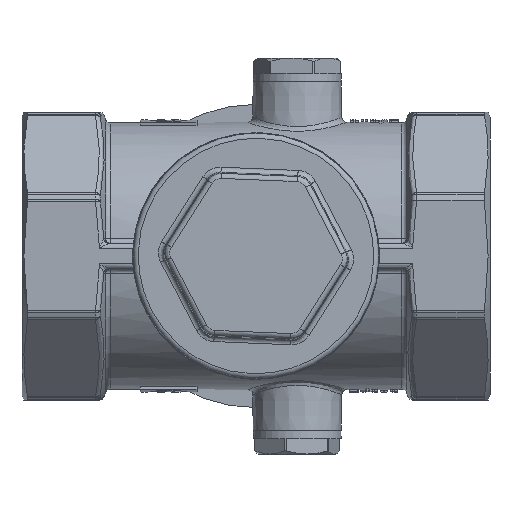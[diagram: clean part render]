
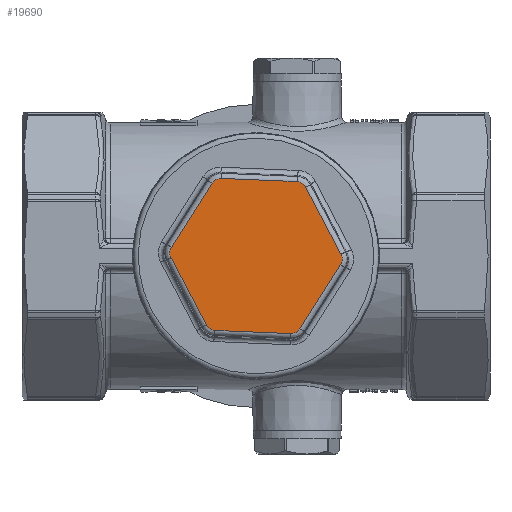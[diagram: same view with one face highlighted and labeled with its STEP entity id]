
A CAD part, front view. The second image highlights one B-rep face of the part: STEP entity #19690.
In plain terms, the highlighted planar face has unit normal (0, -1, 0).
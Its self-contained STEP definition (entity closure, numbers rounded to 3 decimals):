
#154=ELLIPSE('',#21513,2.002,2.);
#157=ELLIPSE('',#21517,2.002,2.);
#158=ELLIPSE('',#21523,2.002,2.);
#161=ELLIPSE('',#21527,2.002,2.);
#162=ELLIPSE('',#21533,2.002,2.);
#165=ELLIPSE('',#21537,2.002,2.);
#2472=LINE('',#42733,#3731);
#2474=LINE('',#42801,#3733);
#2477=LINE('',#42808,#3736);
#2478=LINE('',#42873,#3737);
#2481=LINE('',#42880,#3740);
#2483=LINE('',#42943,#3742);
#3731=VECTOR('',#26361,10.);
#3733=VECTOR('',#26381,10.);
#3736=VECTOR('',#26388,10.);
#3737=VECTOR('',#26405,10.);
#3740=VECTOR('',#26412,10.);
#3742=VECTOR('',#26428,10.);
#4391=PLANE('',#21548);
#5761=FACE_OUTER_BOUND('',#6934,.T.);
#6934=EDGE_LOOP('',(#18412,#18413,#18414,#18415,#18416,#18417,#18418,#18419,
#18420,#18421,#18422,#18423));
#10038=VERTEX_POINT('',#42730);
#10039=VERTEX_POINT('',#42732);
#10042=VERTEX_POINT('',#42763);
#10043=VERTEX_POINT('',#42792);
#10046=VERTEX_POINT('',#42799);
#10047=VERTEX_POINT('',#42804);
#10050=VERTEX_POINT('',#42835);
#10051=VERTEX_POINT('',#42864);
#10054=VERTEX_POINT('',#42871);
#10055=VERTEX_POINT('',#42876);
#10058=VERTEX_POINT('',#42907);
#10059=VERTEX_POINT('',#42936);
#12811=EDGE_CURVE('',#10038,#10039,#2472,.T.);
#12815=EDGE_CURVE('',#10042,#10038,#154,.T.);
#12819=EDGE_CURVE('',#10039,#10043,#157,.T.);
#12821=EDGE_CURVE('',#10046,#10042,#2474,.T.);
#12825=EDGE_CURVE('',#10043,#10047,#2477,.T.);
#12827=EDGE_CURVE('',#10050,#10046,#158,.T.);
#12831=EDGE_CURVE('',#10047,#10051,#161,.T.);
#12833=EDGE_CURVE('',#10054,#10050,#2478,.T.);
#12837=EDGE_CURVE('',#10051,#10055,#2481,.T.);
#12839=EDGE_CURVE('',#10058,#10054,#162,.T.);
#12843=EDGE_CURVE('',#10055,#10059,#165,.T.);
#12845=EDGE_CURVE('',#10059,#10058,#2483,.T.);
#18412=ORIENTED_EDGE('',*,*,#12811,.F.);
#18413=ORIENTED_EDGE('',*,*,#12815,.F.);
#18414=ORIENTED_EDGE('',*,*,#12821,.F.);
#18415=ORIENTED_EDGE('',*,*,#12827,.F.);
#18416=ORIENTED_EDGE('',*,*,#12833,.F.);
#18417=ORIENTED_EDGE('',*,*,#12839,.F.);
#18418=ORIENTED_EDGE('',*,*,#12845,.F.);
#18419=ORIENTED_EDGE('',*,*,#12843,.F.);
#18420=ORIENTED_EDGE('',*,*,#12837,.F.);
#18421=ORIENTED_EDGE('',*,*,#12831,.F.);
#18422=ORIENTED_EDGE('',*,*,#12825,.F.);
#18423=ORIENTED_EDGE('',*,*,#12819,.F.);
#19690=ADVANCED_FACE('',(#5761),#4391,.F.);
#21513=AXIS2_PLACEMENT_3D('',#42765,#26367,#26368);
#21517=AXIS2_PLACEMENT_3D('',#42796,#26375,#26376);
#21523=AXIS2_PLACEMENT_3D('',#42837,#26391,#26392);
#21527=AXIS2_PLACEMENT_3D('',#42868,#26399,#26400);
#21533=AXIS2_PLACEMENT_3D('',#42909,#26415,#26416);
#21537=AXIS2_PLACEMENT_3D('',#42940,#26423,#26424);
#21548=AXIS2_PLACEMENT_3D('',#42970,#26457,#26458);
#26361=DIRECTION('',(-0.536,0.,-0.844));
#26367=DIRECTION('center_axis',(0.,1.,0.));
#26368=DIRECTION('ref_axis',(0.999,0.,-0.042));
#26375=DIRECTION('center_axis',(0.,1.,0.));
#26376=DIRECTION('ref_axis',(0.464,0.,-0.886));
#26381=DIRECTION('',(0.464,0.,-0.886));
#26388=DIRECTION('',(-0.999,0.,0.042));
#26391=DIRECTION('center_axis',(0.,1.,0.));
#26392=DIRECTION('ref_axis',(0.536,0.,0.844));
#26399=DIRECTION('center_axis',(0.,1.,0.));
#26400=DIRECTION('ref_axis',(-0.536,0.,-0.844));
#26405=DIRECTION('',(0.999,0.,-0.042));
#26412=DIRECTION('',(-0.464,0.,0.886));
#26415=DIRECTION('center_axis',(0.,1.,0.));
#26416=DIRECTION('ref_axis',(-0.464,0.,0.886));
#26423=DIRECTION('center_axis',(0.,1.,0.));
#26424=DIRECTION('ref_axis',(-0.999,0.,0.042));
#26428=DIRECTION('',(0.536,0.,0.844));
#26457=DIRECTION('center_axis',(0.,1.,0.));
#26458=DIRECTION('ref_axis',(0.042,0.,0.999));
#42730=CARTESIAN_POINT('',(16.445,-48.,-1.684));
#42732=CARTESIAN_POINT('',(8.535,-48.,-14.158));
#42733=CARTESIAN_POINT('',(14.964,-48.,-4.02));
#42763=CARTESIAN_POINT('',(16.528,-48.,0.313));
#42765=CARTESIAN_POINT('Origin',(14.754,-48.,-0.614));
#42792=CARTESIAN_POINT('',(6.764,-48.,-15.084));
#42796=CARTESIAN_POINT('Origin',(6.846,-48.,-13.085));
#42799=CARTESIAN_POINT('',(9.681,-48.,13.4));
#42801=CARTESIAN_POINT('',(10.964,-48.,10.949));
#42804=CARTESIAN_POINT('',(-7.993,-48.,-14.47));
#42808=CARTESIAN_POINT('',(4.,-48.,-14.969));
#42835=CARTESIAN_POINT('',(7.993,-48.,14.47));
#42837=CARTESIAN_POINT('Origin',(7.909,-48.,12.471));
#42864=CARTESIAN_POINT('',(-9.681,-48.,-13.4));
#42868=CARTESIAN_POINT('Origin',(-7.909,-48.,-12.471));
#42871=CARTESIAN_POINT('',(-6.764,-48.,15.084));
#42873=CARTESIAN_POINT('',(-4.,-48.,14.969));
#42876=CARTESIAN_POINT('',(-16.528,-48.,-0.313));
#42880=CARTESIAN_POINT('',(-10.964,-48.,-10.949));
#42907=CARTESIAN_POINT('',(-8.535,-48.,14.158));
#42909=CARTESIAN_POINT('Origin',(-6.846,-48.,13.085));
#42936=CARTESIAN_POINT('',(-16.445,-48.,1.684));
#42940=CARTESIAN_POINT('Origin',(-14.754,-48.,0.614));
#42943=CARTESIAN_POINT('',(-14.964,-48.,4.02));
#42970=CARTESIAN_POINT('Origin',(0.,-48.,0.));
